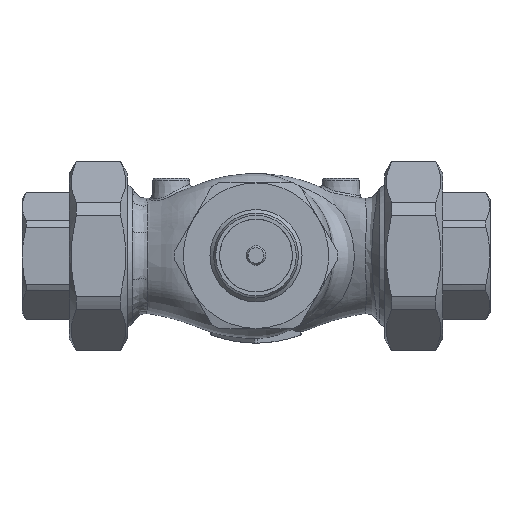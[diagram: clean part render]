
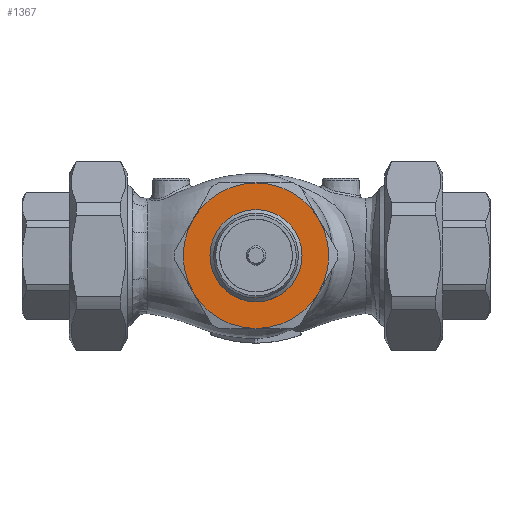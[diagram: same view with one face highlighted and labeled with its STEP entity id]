
A CAD part, top view. The second image highlights one B-rep face of the part: STEP entity #1367.
In plain terms, the highlighted planar face has unit normal (0, 0, 1).
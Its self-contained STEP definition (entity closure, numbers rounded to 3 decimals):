
#848=PLANE('',#10097);
#1131=FACE_BOUND('',#2792,.T.);
#1132=FACE_BOUND('',#2793,.T.);
#1367=ADVANCED_FACE('',(#1131,#1132),#848,.T.);
#2792=EDGE_LOOP('',(#4445));
#2793=EDGE_LOOP('',(#4446,#4447,#4448,#4449,#4450,#4451));
#3385=CIRCLE('',#10010,19.);
#3415=CIRCLE('',#10091,30.);
#3416=CIRCLE('',#10092,30.);
#3417=CIRCLE('',#10093,30.);
#3418=CIRCLE('',#10094,30.);
#3419=CIRCLE('',#10095,30.);
#3420=CIRCLE('',#10096,30.);
#4445=ORIENTED_EDGE('',*,*,#7793,.T.);
#4446=ORIENTED_EDGE('',*,*,#7881,.T.);
#4447=ORIENTED_EDGE('',*,*,#7882,.T.);
#4448=ORIENTED_EDGE('',*,*,#7883,.T.);
#4449=ORIENTED_EDGE('',*,*,#7884,.T.);
#4450=ORIENTED_EDGE('',*,*,#7885,.T.);
#4451=ORIENTED_EDGE('',*,*,#7886,.T.);
#6821=VERTEX_POINT('',#21687);
#6864=VERTEX_POINT('',#21881);
#6869=VERTEX_POINT('',#21905);
#6874=VERTEX_POINT('',#21929);
#6879=VERTEX_POINT('',#21953);
#6884=VERTEX_POINT('',#21977);
#6889=VERTEX_POINT('',#22001);
#7793=EDGE_CURVE('',#6821,#6821,#3385,.T.);
#7881=EDGE_CURVE('',#6864,#6869,#3415,.T.);
#7882=EDGE_CURVE('',#6869,#6879,#3416,.T.);
#7883=EDGE_CURVE('',#6879,#6884,#3417,.T.);
#7884=EDGE_CURVE('',#6884,#6889,#3418,.T.);
#7885=EDGE_CURVE('',#6889,#6874,#3419,.T.);
#7886=EDGE_CURVE('',#6874,#6864,#3420,.T.);
#10010=AXIS2_PLACEMENT_3D('',#21686,#11350,#11351);
#10091=AXIS2_PLACEMENT_3D('',#22018,#11534,#11535);
#10092=AXIS2_PLACEMENT_3D('',#22019,#11536,#11537);
#10093=AXIS2_PLACEMENT_3D('',#22020,#11538,#11539);
#10094=AXIS2_PLACEMENT_3D('',#22021,#11540,#11541);
#10095=AXIS2_PLACEMENT_3D('',#22022,#11542,#11543);
#10096=AXIS2_PLACEMENT_3D('',#22023,#11544,#11545);
#10097=AXIS2_PLACEMENT_3D('',#22024,#11546,#11547);
#11350=DIRECTION('',(0.,0.,-1.));
#11351=DIRECTION('',(0.,1.,0.));
#11534=DIRECTION('',(0.,0.,1.));
#11535=DIRECTION('',(-1.,0.,0.));
#11536=DIRECTION('',(0.,0.,1.));
#11537=DIRECTION('',(-1.,0.,0.));
#11538=DIRECTION('',(0.,0.,1.));
#11539=DIRECTION('',(-1.,0.,0.));
#11540=DIRECTION('',(0.,0.,1.));
#11541=DIRECTION('',(-1.,0.,0.));
#11542=DIRECTION('',(0.,0.,1.));
#11543=DIRECTION('',(-1.,0.,0.));
#11544=DIRECTION('',(0.,0.,1.));
#11545=DIRECTION('',(-1.,0.,0.));
#11546=DIRECTION('',(0.,0.,1.));
#11547=DIRECTION('',(-1.,0.,0.));
#21686=CARTESIAN_POINT('',(0.,0.,67.));
#21687=CARTESIAN_POINT('',(0.,19.,67.));
#21881=CARTESIAN_POINT('',(-25.981,-15.,67.));
#21905=CARTESIAN_POINT('',(0.,-30.,67.));
#21929=CARTESIAN_POINT('',(-25.981,15.,67.));
#21953=CARTESIAN_POINT('',(25.981,-15.,67.));
#21977=CARTESIAN_POINT('',(25.981,15.,67.));
#22001=CARTESIAN_POINT('',(0.,30.,67.));
#22018=CARTESIAN_POINT('',(0.,0.,67.));
#22019=CARTESIAN_POINT('',(0.,0.,67.));
#22020=CARTESIAN_POINT('',(0.,0.,67.));
#22021=CARTESIAN_POINT('',(0.,0.,67.));
#22022=CARTESIAN_POINT('',(0.,0.,67.));
#22023=CARTESIAN_POINT('',(0.,0.,67.));
#22024=CARTESIAN_POINT('',(-22.5,0.,67.));
